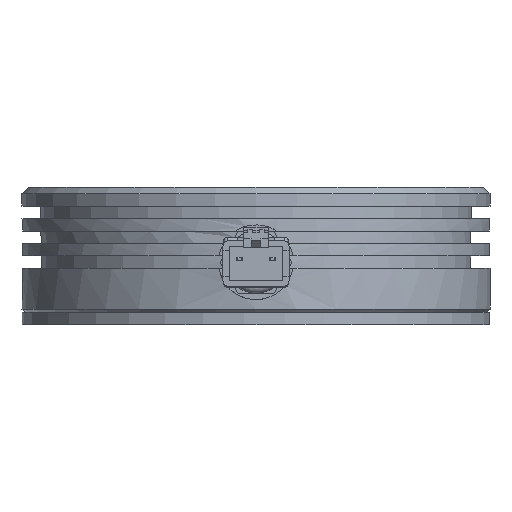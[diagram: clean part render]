
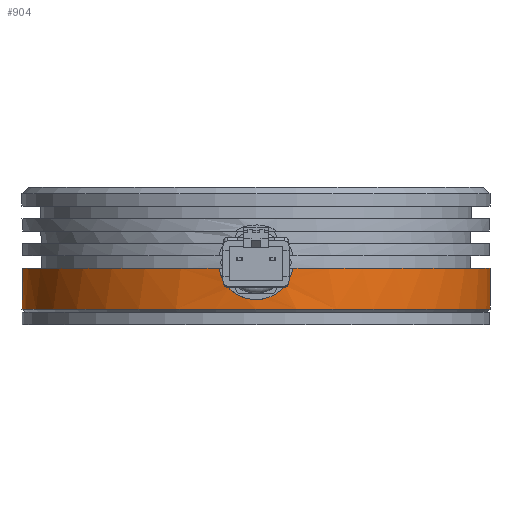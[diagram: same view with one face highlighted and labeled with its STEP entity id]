
A CAD part, front view. The second image highlights one B-rep face of the part: STEP entity #904.
In plain terms, the highlighted cylindrical face has radius 37.5 mm (diameter 75 mm), a full revolution.
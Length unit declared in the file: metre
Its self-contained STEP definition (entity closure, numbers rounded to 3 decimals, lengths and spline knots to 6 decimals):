
#904=ADVANCED_FACE('0:1757',(#2586,#2587),#2588,.T.);
#2586=FACE_OUTER_BOUND('',#4980,.T.);
#2587=FACE_OUTER_BOUND('',#4981,.T.);
#2588=CYLINDRICAL_SURFACE('',#4982,0.0375);
#4980=EDGE_LOOP('',(#9279,#9280));
#4981=EDGE_LOOP('',(#9281));
#4982=AXIS2_PLACEMENT_3D('',#9282,#9283,#9284);
#9279=ORIENTED_EDGE('',*,*,#13116,.T.);
#9280=ORIENTED_EDGE('',*,*,#13117,.T.);
#9281=ORIENTED_EDGE('',*,*,#13118,.F.);
#9282=CARTESIAN_POINT('',(0.0,0.034,-0.012));
#9283=DIRECTION('',(0.0,0.,1.0));
#9284=DIRECTION('',(1.0,0.0,0.0));
#13116=EDGE_CURVE('0:2069',#14053,#14054,#14055,.T.);
#13117=EDGE_CURVE('0:2063',#14054,#14053,#14056,.T.);
#13118=EDGE_CURVE('0:2066',#14057,#14057,#14058,.T.);
#14053=VERTEX_POINT('',#15372);
#14054=VERTEX_POINT('',#15373);
#14055=B_SPLINE_CURVE_WITH_KNOTS('',3,(#15374,#15375,#15376,#15377,#15378,#15379,#15380,#15381,#15382,#15383,#15384,#15385,#15386,#15387,#15388,#15389,#15390,#15391,#15392,#15393,#15394,#15395,#15396,#15397,#15398,#15399,#15400,#15401,#15402),.UNSPECIFIED.,.F.,.F.,(4,1,1,1,1,1,1,1,1,1,1,1,1,1,1,1,1,1,1,1,1,1,1,1,1,1,4),(0.0,0.014055,0.028026,0.041934,0.0558,0.069645,0.083491,0.097359,0.111269,0.125244,0.187565,0.250071,0.312622,0.375115,0.437586,0.500008,0.562417,0.624893,0.687374,0.749945,0.812447,0.874778,0.899874,0.92482,0.949741,0.97476,1.0),.UNSPECIFIED.);
#14056=CIRCLE('',#15403,0.0375);
#14057=VERTEX_POINT('',#15404);
#14058=CIRCLE('',#15405,0.0375);
#15372=CARTESIAN_POINT('',(0.005916,-0.00303,-0.025));
#15373=CARTESIAN_POINT('',(-0.005916,-0.00303,-0.025));
#15374=CARTESIAN_POINT('',(0.005916,-0.00303,-0.025));
#15375=CARTESIAN_POINT('',(0.005902,-0.003033,-0.025078));
#15376=CARTESIAN_POINT('',(0.005873,-0.003037,-0.025232));
#15377=CARTESIAN_POINT('',(0.00582,-0.003046,-0.025462));
#15378=CARTESIAN_POINT('',(0.005759,-0.003055,-0.025688));
#15379=CARTESIAN_POINT('',(0.005689,-0.003066,-0.025911));
#15380=CARTESIAN_POINT('',(0.00561,-0.003078,-0.026131));
#15381=CARTESIAN_POINT('',(0.005523,-0.003091,-0.026347));
#15382=CARTESIAN_POINT('',(0.005428,-0.003105,-0.02656));
#15383=CARTESIAN_POINT('',(0.005324,-0.00312,-0.02677));
#15384=CARTESIAN_POINT('',(0.005082,-0.003155,-0.027214));
#15385=CARTESIAN_POINT('',(0.004638,-0.003214,-0.027858));
#15386=CARTESIAN_POINT('',(0.003894,-0.0033,-0.028604));
#15387=CARTESIAN_POINT('',(0.003032,-0.003381,-0.029215));
#15388=CARTESIAN_POINT('',(0.002074,-0.003447,-0.029662));
#15389=CARTESIAN_POINT('',(0.001054,-0.00349,-0.029939));
#15390=CARTESIAN_POINT('',(0.,-0.003505,-0.03003));
#15391=CARTESIAN_POINT('',(-0.001054,-0.00349,-0.029939));
#15392=CARTESIAN_POINT('',(-0.002074,-0.003447,-0.029662));
#15393=CARTESIAN_POINT('',(-0.003032,-0.003381,-0.029215));
#15394=CARTESIAN_POINT('',(-0.003893,-0.0033,-0.028605));
#15395=CARTESIAN_POINT('',(-0.004638,-0.003214,-0.027858));
#15396=CARTESIAN_POINT('',(-0.005117,-0.00315,-0.027162));
#15397=CARTESIAN_POINT('',(-0.00541,-0.003108,-0.026604));
#15398=CARTESIAN_POINT('',(-0.00558,-0.003083,-0.026219));
#15399=CARTESIAN_POINT('',(-0.005721,-0.003061,-0.025823));
#15400=CARTESIAN_POINT('',(-0.005836,-0.003043,-0.025416));
#15401=CARTESIAN_POINT('',(-0.005889,-0.003035,-0.025139));
#15402=CARTESIAN_POINT('',(-0.005916,-0.00303,-0.025));
#15403=AXIS2_PLACEMENT_3D('',#17123,#17124,#17125);
#15404=CARTESIAN_POINT('',(0.0375,0.034,-0.0315));
#15405=AXIS2_PLACEMENT_3D('',#17126,#17127,#17128);
#17123=CARTESIAN_POINT('',(0.0,0.034,-0.025));
#17124=DIRECTION('',(0.0,0.,-1.0));
#17125=DIRECTION('',(1.0,0.0,0.0));
#17126=CARTESIAN_POINT('',(0.0,0.034,-0.0315));
#17127=DIRECTION('',(0.0,0.,-1.0));
#17128=DIRECTION('',(1.0,0.0,0.0));
